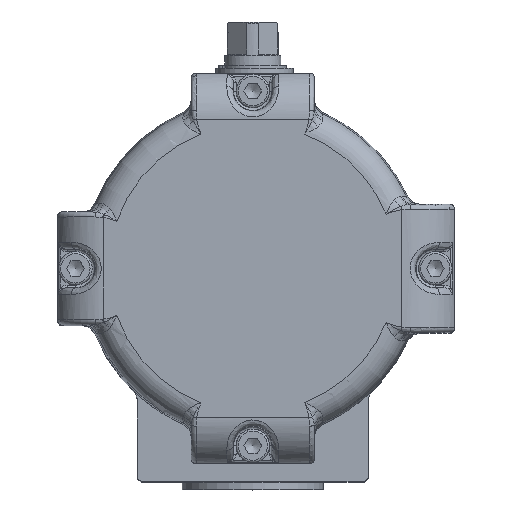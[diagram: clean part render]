
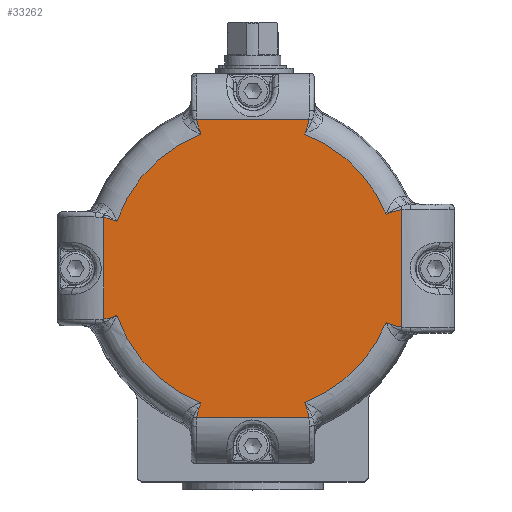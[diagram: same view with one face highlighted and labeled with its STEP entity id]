
A CAD part, top view. The second image highlights one B-rep face of the part: STEP entity #33262.
In plain terms, the highlighted planar face has unit normal (0, 0, 1).
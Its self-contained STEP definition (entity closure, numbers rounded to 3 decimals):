
#3332=FACE_OUTER_BOUND('',#5373,.T.);
#5373=EDGE_LOOP('',(#22009,#22010,#22011,#22012,#22013,#22014,#22015,#22016,
#22017,#22018,#22019,#22020,#22021,#22022,#22023,#22024));
#7192=LINE('',#49801,#8578);
#7203=LINE('',#50087,#8589);
#7215=LINE('',#50394,#8601);
#7228=LINE('',#50698,#8614);
#8578=VECTOR('',#39177,10.);
#8589=VECTOR('',#39232,10.);
#8601=VECTOR('',#39294,10.);
#8614=VECTOR('',#39357,10.);
#10211=CIRCLE('',#35446,55.986);
#10224=CIRCLE('',#35463,55.986);
#10226=CIRCLE('',#35466,22.);
#10236=CIRCLE('',#35478,20.);
#10242=CIRCLE('',#35485,55.986);
#10245=CIRCLE('',#35489,20.);
#10260=CIRCLE('',#35508,55.986);
#10268=CIRCLE('',#35518,23.);
#10272=CIRCLE('',#35525,22.);
#10273=CIRCLE('',#35528,22.);
#10277=CIRCLE('',#35534,22.);
#10278=CIRCLE('',#35535,23.);
#12358=VERTEX_POINT('',#49775);
#12364=VERTEX_POINT('',#49796);
#12387=VERTEX_POINT('',#50085);
#12388=VERTEX_POINT('',#50086);
#12417=VERTEX_POINT('',#50388);
#12418=VERTEX_POINT('',#50393);
#12447=VERTEX_POINT('',#50692);
#12448=VERTEX_POINT('',#50697);
#12716=VERTEX_POINT('',#55224);
#12719=VERTEX_POINT('',#55279);
#12744=VERTEX_POINT('',#55679);
#12747=VERTEX_POINT('',#55730);
#12764=VERTEX_POINT('',#56090);
#12774=VERTEX_POINT('',#56287);
#12798=VERTEX_POINT('',#56742);
#12801=VERTEX_POINT('',#56793);
#15452=EDGE_CURVE('',#12358,#12364,#7192,.T.);
#15489=EDGE_CURVE('',#12387,#12388,#7203,.T.);
#15533=EDGE_CURVE('',#12417,#12418,#7215,.T.);
#15577=EDGE_CURVE('',#12448,#12447,#7228,.T.);
#16049=EDGE_CURVE('',#12716,#12719,#10211,.T.);
#16090=EDGE_CURVE('',#12744,#12747,#10224,.T.);
#16097=EDGE_CURVE('',#12388,#12744,#10226,.T.);
#16116=EDGE_CURVE('',#12747,#12364,#10236,.T.);
#16136=EDGE_CURVE('',#12764,#12774,#10242,.T.);
#16143=EDGE_CURVE('',#12358,#12764,#10245,.T.);
#16180=EDGE_CURVE('',#12798,#12801,#10260,.T.);
#16200=EDGE_CURVE('',#12801,#12417,#10268,.T.);
#16207=EDGE_CURVE('',#12448,#12798,#10272,.T.);
#16211=EDGE_CURVE('',#12774,#12447,#10273,.T.);
#16215=EDGE_CURVE('',#12719,#12387,#10277,.T.);
#16216=EDGE_CURVE('',#12418,#12716,#10278,.T.);
#22009=ORIENTED_EDGE('',*,*,#15489,.F.);
#22010=ORIENTED_EDGE('',*,*,#16215,.F.);
#22011=ORIENTED_EDGE('',*,*,#16049,.F.);
#22012=ORIENTED_EDGE('',*,*,#16216,.F.);
#22013=ORIENTED_EDGE('',*,*,#15533,.F.);
#22014=ORIENTED_EDGE('',*,*,#16200,.F.);
#22015=ORIENTED_EDGE('',*,*,#16180,.F.);
#22016=ORIENTED_EDGE('',*,*,#16207,.F.);
#22017=ORIENTED_EDGE('',*,*,#15577,.T.);
#22018=ORIENTED_EDGE('',*,*,#16211,.F.);
#22019=ORIENTED_EDGE('',*,*,#16136,.F.);
#22020=ORIENTED_EDGE('',*,*,#16143,.F.);
#22021=ORIENTED_EDGE('',*,*,#15452,.T.);
#22022=ORIENTED_EDGE('',*,*,#16116,.F.);
#22023=ORIENTED_EDGE('',*,*,#16090,.F.);
#22024=ORIENTED_EDGE('',*,*,#16097,.F.);
#30475=PLANE('',#35533);
#33262=ADVANCED_FACE('',(#3332),#30475,.T.);
#35446=AXIS2_PLACEMENT_3D('',#55280,#40059,#40060);
#35463=AXIS2_PLACEMENT_3D('',#55731,#40097,#40098);
#35466=AXIS2_PLACEMENT_3D('',#55760,#40103,#40104);
#35478=AXIS2_PLACEMENT_3D('',#56035,#40127,#40128);
#35485=AXIS2_PLACEMENT_3D('',#56288,#40141,#40142);
#35489=AXIS2_PLACEMENT_3D('',#56314,#40149,#40150);
#35508=AXIS2_PLACEMENT_3D('',#56794,#40187,#40188);
#35518=AXIS2_PLACEMENT_3D('',#57054,#40207,#40208);
#35525=AXIS2_PLACEMENT_3D('',#57098,#40223,#40224);
#35528=AXIS2_PLACEMENT_3D('',#57118,#40231,#40232);
#35533=AXIS2_PLACEMENT_3D('',#57143,#40241,#40242);
#35534=AXIS2_PLACEMENT_3D('',#57144,#40243,#40244);
#35535=AXIS2_PLACEMENT_3D('',#57145,#40245,#40246);
#39177=DIRECTION('',(0.,-1.,0.));
#39232=DIRECTION('',(-1.,0.,0.));
#39294=DIRECTION('',(0.,-1.,0.));
#39357=DIRECTION('',(-1.,0.,0.));
#40059=DIRECTION('center_axis',(0.,0.,
-1.));
#40060=DIRECTION('ref_axis',(-1.,0.,0.));
#40097=DIRECTION('center_axis',(0.,0.,
-1.));
#40098=DIRECTION('ref_axis',(-1.,0.,0.));
#40103=DIRECTION('center_axis',(0.,0.,
-1.));
#40104=DIRECTION('ref_axis',(-0.965,0.264,0.));
#40127=DIRECTION('center_axis',(0.,0.,
-1.));
#40128=DIRECTION('ref_axis',(0.27,-0.963,0.));
#40141=DIRECTION('center_axis',(0.,0.,
-1.));
#40142=DIRECTION('ref_axis',(-1.,0.,0.));
#40149=DIRECTION('center_axis',(0.,0.,
-1.));
#40150=DIRECTION('ref_axis',(0.27,0.963,0.));
#40187=DIRECTION('center_axis',(0.,0.,
-1.));
#40188=DIRECTION('ref_axis',(-1.,0.,0.));
#40207=DIRECTION('center_axis',(0.,0.,
-1.));
#40208=DIRECTION('ref_axis',(-0.261,0.965,0.));
#40223=DIRECTION('center_axis',(0.,0.,
-1.));
#40224=DIRECTION('ref_axis',(0.965,-0.264,0.));
#40231=DIRECTION('center_axis',(0.,0.,
-1.));
#40232=DIRECTION('ref_axis',(-0.965,-0.264,0.));
#40241=DIRECTION('center_axis',(0.,0.,
1.));
#40242=DIRECTION('ref_axis',(0.,-1.,0.));
#40243=DIRECTION('center_axis',(0.,0.,
-1.));
#40244=DIRECTION('ref_axis',(0.965,0.264,0.));
#40245=DIRECTION('center_axis',(0.,0.,
-1.));
#40246=DIRECTION('ref_axis',(-0.261,-0.965,0.));
#49775=CARTESIAN_POINT('',(-58.,19.774,96.5));
#49796=CARTESIAN_POINT('',(-58.,-19.774,96.5));
#49801=CARTESIAN_POINT('',(-58.,0.,96.5));
#50085=CARTESIAN_POINT('',(21.794,-58.,96.5));
#50086=CARTESIAN_POINT('',(-21.794,-58.,96.5));
#50087=CARTESIAN_POINT('',(0.,-58.,96.5));
#50388=CARTESIAN_POINT('',(58.,22.804,96.5));
#50393=CARTESIAN_POINT('',(58.,-22.804,96.5));
#50394=CARTESIAN_POINT('',(58.,0.,96.5));
#50692=CARTESIAN_POINT('',(-21.794,58.,96.5));
#50697=CARTESIAN_POINT('',(21.794,58.,96.5));
#50698=CARTESIAN_POINT('',(0.,58.,96.5));
#55224=CARTESIAN_POINT('',(51.856,-21.104,96.5));
#55279=CARTESIAN_POINT('',(20.174,-52.225,96.5));
#55280=CARTESIAN_POINT('Origin',(0.,0.,
96.5));
#55679=CARTESIAN_POINT('',(-20.174,-52.225,96.5));
#55730=CARTESIAN_POINT('',(-52.913,-18.292,96.5));
#55731=CARTESIAN_POINT('Origin',(0.,0.,
96.5));
#55760=CARTESIAN_POINT('Origin',(0.,-61.,96.5));
#56035=CARTESIAN_POINT('Origin',(-61.,0.,96.5));
#56090=CARTESIAN_POINT('',(-52.913,18.292,96.5));
#56287=CARTESIAN_POINT('',(-20.174,52.225,96.5));
#56288=CARTESIAN_POINT('Origin',(0.,0.,
96.5));
#56314=CARTESIAN_POINT('Origin',(-61.,0.,96.5));
#56742=CARTESIAN_POINT('',(20.174,52.225,96.5));
#56793=CARTESIAN_POINT('',(51.856,21.104,96.5));
#56794=CARTESIAN_POINT('Origin',(0.,0.,
96.5));
#57054=CARTESIAN_POINT('Origin',(61.,0.,96.5));
#57098=CARTESIAN_POINT('Origin',(0.,61.,96.5));
#57118=CARTESIAN_POINT('Origin',(0.,61.,96.5));
#57143=CARTESIAN_POINT('Origin',(-27.993,0.,
96.5));
#57144=CARTESIAN_POINT('Origin',(0.,-61.,96.5));
#57145=CARTESIAN_POINT('Origin',(61.,0.,96.5));
